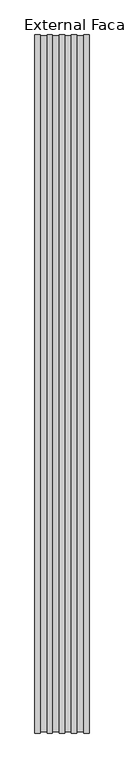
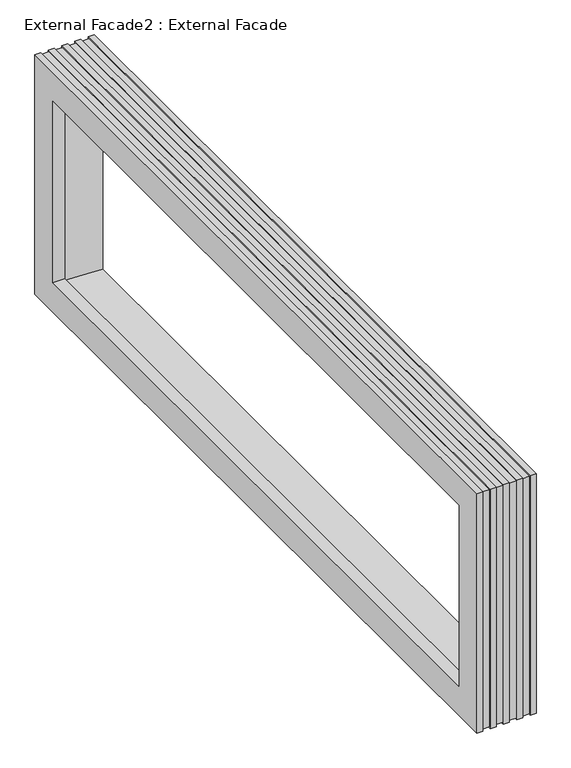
"""IFC4 building model written with IfcOpenShell, lengths in millimetres: proxy geometry, External Facade2 : External Facade."""

from ifc_helpers import new_model, si_unit, origin, place, context, project, spatial, faceted_brep, source, transform, mapped, element, save


def external_facade2_external_facade_9c965de6(model_context):
    return source(origin(), model_context, "Body", "Brep", [
        faceted_brep([(44093.2942367, 9045.537589, 10911.9570701), (43293.2942367, 8918.8300368, 11038.6646224), (43293.2942367, -3236.3407185, 11038.6646224), (44093.2942367, -3363.0482707, 10911.9570701), (43868.2942367, 9272.4946591, 10685.0), (43993.2942367, 9272.4946591, 10685.0), (43993.2942367, -3590.0053409, 10685.0), (43868.2942367, -3590.0053409, 10685.0), (43293.2942367, 8772.4946591, 11185.0), (43093.2942367, 8772.4946591, 11185.0), (43093.2942367, -3090.0053409, 11185.0), (43293.2942367, -3090.0053409, 11185.0), (43293.2942367, -3236.3407185, 14561.3353776), (44093.2942367, -3363.0482707, 14688.0429299), (43993.2942367, -3590.0053409, 14915.0), (43868.2942367, -3590.0053409, 14915.0), (43093.2942367, -3090.0053409, 14415.0), (43293.2942367, -3090.0053409, 14415.0), (43293.2942367, 8918.8300368, 14561.3353776), (44093.2942367, 9045.537589, 14688.0429299), (43993.2942367, 9272.4946591, 14915.0), (43868.2942367, 9272.4946591, 14915.0), (43093.2942367, 8772.4946591, 14415.0), (43293.2942367, 8772.4946591, 14415.0), (44093.2942367, 9292.4946591, 10665.0), (44093.2942367, 9292.4946591, 14935.0), (44093.2942367, -3610.0053409, 14935.0), (44093.2942367, -3610.0053409, 10665.0), (43093.2942367, -3610.0053409, 10665.0), (43093.2942367, -3610.0053409, 14935.0), (43093.2942367, 9292.4946591, 14935.0), (43093.2942367, 9292.4946591, 10665.0), (43993.2942367, 9292.4946591, 10665.0), (43993.2942367, -3610.0053409, 10665.0), (43768.2942367, 9292.4946591, 10665.0), (43868.2942367, 9292.4946591, 10665.0), (43868.2942367, -3610.0053409, 10665.0), (43768.2942367, -3610.0053409, 10665.0), (43643.2942367, 9272.4946591, 10685.0), (43768.2942367, 9272.4946591, 10685.0), (43768.2942367, -3590.0053409, 10685.0), (43643.2942367, -3590.0053409, 10685.0), (43543.2942367, 9292.4946591, 10665.0), (43643.2942367, 9292.4946591, 10665.0), (43643.2942367, -3610.0053409, 10665.0), (43543.2942367, -3610.0053409, 10665.0), (43418.2942367, 9272.4946591, 10685.0), (43543.2942367, 9272.4946591, 10685.0), (43543.2942367, -3590.0053409, 10685.0), (43418.2942367, -3590.0053409, 10685.0), (43318.2942367, 9292.4946591, 10665.0), (43418.2942367, 9292.4946591, 10665.0), (43418.2942367, -3610.0053409, 10665.0), (43318.2942367, -3610.0053409, 10665.0), (43193.2942367, 9272.4946591, 10685.0), (43318.2942367, 9272.4946591, 10685.0), (43318.2942367, -3590.0053409, 10685.0), (43193.2942367, -3590.0053409, 10685.0), (43193.2942367, 9292.4946591, 10665.0), (43193.2942367, -3610.0053409, 10665.0), (43993.2942367, -3610.0053409, 14935.0), (43868.2942367, -3610.0053409, 14935.0), (43768.2942367, -3610.0053409, 14935.0), (43768.2942367, -3590.0053409, 14915.0), (43643.2942367, -3590.0053409, 14915.0), (43643.2942367, -3610.0053409, 14935.0), (43543.2942367, -3610.0053409, 14935.0), (43543.2942367, -3590.0053409, 14915.0), (43418.2942367, -3590.0053409, 14915.0), (43418.2942367, -3610.0053409, 14935.0), (43318.2942367, -3610.0053409, 14935.0), (43318.2942367, -3590.0053409, 14915.0), (43193.2942367, -3590.0053409, 14915.0), (43193.2942367, -3610.0053409, 14935.0), (43993.2942367, 9292.4946591, 14935.0), (43868.2942367, 9292.4946591, 14935.0), (43768.2942367, 9292.4946591, 14935.0), (43768.2942367, 9272.4946591, 14915.0), (43643.2942367, 9272.4946591, 14915.0), (43643.2942367, 9292.4946591, 14935.0), (43543.2942367, 9292.4946591, 14935.0), (43543.2942367, 9272.4946591, 14915.0), (43418.2942367, 9272.4946591, 14915.0), (43418.2942367, 9292.4946591, 14935.0), (43318.2942367, 9292.4946591, 14935.0), (43318.2942367, 9272.4946591, 14915.0), (43193.2942367, 9272.4946591, 14915.0), (43193.2942367, 9292.4946591, 14935.0)], [[[0, 1, 2, 3]], [[4, 5, 6, 7]], [[8, 9, 10, 11]], [[3, 2, 12, 13]], [[7, 6, 14, 15]], [[11, 10, 16, 17]], [[13, 12, 18, 19]], [[15, 14, 20, 21]], [[17, 16, 22, 23]], [[1, 18, 12, 2], [11, 17, 23, 8]], [[19, 18, 1, 0]], [[24, 25, 26, 27], [3, 13, 19, 0]], [[21, 20, 5, 4]], [[28, 29, 30, 31], [9, 22, 16, 10]], [[23, 22, 9, 8]], [[32, 24, 27, 33]], [[34, 35, 36, 37]], [[38, 39, 40, 41]], [[42, 43, 44, 45]], [[46, 47, 48, 49]], [[50, 51, 52, 53]], [[54, 55, 56, 57]], [[31, 58, 59, 28]], [[33, 27, 26, 60]], [[37, 36, 61, 62]], [[41, 40, 63, 64]], [[45, 44, 65, 66]], [[49, 48, 67, 68]], [[53, 52, 69, 70]], [[57, 56, 71, 72]], [[28, 59, 73, 29]], [[60, 26, 25, 74]], [[62, 61, 75, 76]], [[64, 63, 77, 78]], [[66, 65, 79, 80]], [[68, 67, 81, 82]], [[70, 69, 83, 84]], [[72, 71, 85, 86]], [[29, 73, 87, 30]], [[74, 25, 24, 32]], [[33, 60, 74, 32], [5, 20, 14, 6]], [[35, 75, 61, 36], [7, 15, 21, 4]], [[76, 75, 35, 34]], [[37, 62, 76, 34], [39, 77, 63, 40]], [[78, 77, 39, 38]], [[43, 79, 65, 44], [41, 64, 78, 38]], [[80, 79, 43, 42]], [[45, 66, 80, 42], [47, 81, 67, 48]], [[82, 81, 47, 46]], [[51, 83, 69, 52], [49, 68, 82, 46]], [[84, 83, 51, 50]], [[53, 70, 84, 50], [55, 85, 71, 56]], [[86, 85, 55, 54]], [[58, 87, 73, 59], [57, 72, 86, 54]], [[30, 87, 58, 31]]]),
    ])


if __name__ == "__main__":
    model = new_model("IFC4")
    model_context = context("Model", 3, world=origin())
    ifc_project = project(units=[si_unit("LENGTHUNIT", "METRE", prefix="MILLI")], contexts=[model_context])
    site = spatial("IfcSite", under=ifc_project)
    building = spatial("IfcBuilding", under=site)
    placement = place(None, origin())
    external_facade2_external_facade_shape = external_facade2_external_facade_9c965de6(model_context)
    element("IfcBuildingElementProxy", 1, Name="External Facade2 : External Facade", ObjectType="External Facade2 : External Facade", at=placement, inside=building, context=model_context, shape_type="MappedRepresentation", body=[
        mapped(external_facade2_external_facade_shape, transform((0.0, 0.0, 0.0), x_axis=(1.0, 0.0, 0.0), y_axis=(0.0, 1.0, 0.0), z_axis=(0.0, 0.0, 1.0))),
    ])
    save(model, "model.ifc")
